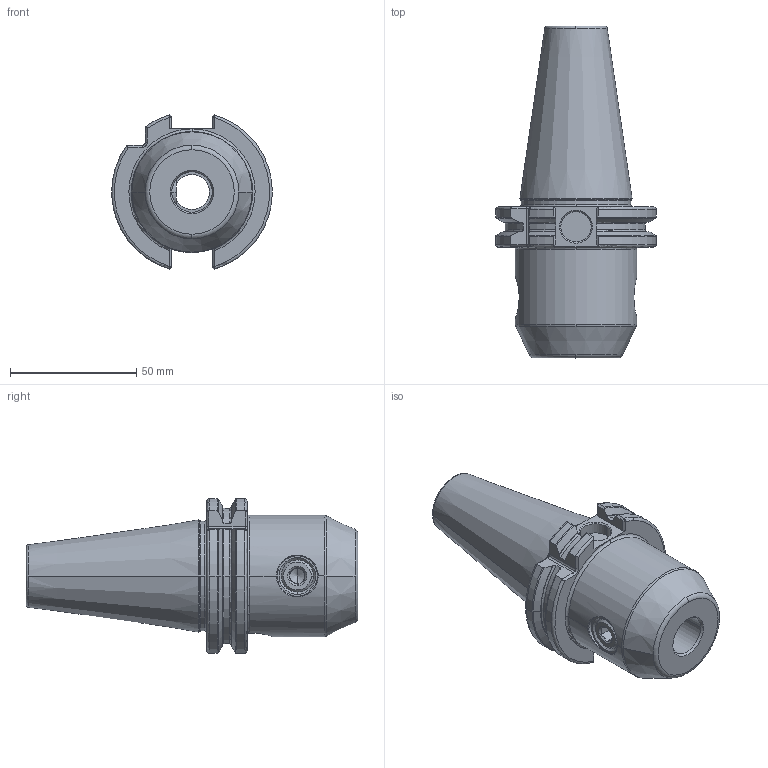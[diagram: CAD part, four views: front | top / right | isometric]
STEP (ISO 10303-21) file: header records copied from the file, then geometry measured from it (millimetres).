
FILE_DESCRIPTION (( 'STEP AP214' ), '1' );
FILE_NAME ('04-0521.STEP', '2022-02-02T18:26:34', ( '' ), ( '' ), 'SwSTEP 2.0', 'SolidWorks 2021', '' );
FILE_SCHEMA (( 'AUTOMOTIVE_DESIGN' ));
Length unit declared in the file: inch
Products named in the file (1): 04-0521
Bounding box: 63.55 x 131.4 x 61.05 mm (x, y, z)
Volume: 162059.6 mm3; surface area: 28851.5 mm2
Topology: 1 solids, 1 shells, 196 faces, 517 edges, 326 vertices
Faces by surface type: plane 58, cone 42, cylinder 42, torus 34, bspline 18, sphere 2
Entity records: 10189 total; most frequent: CARTESIAN_POINT 2941, ORIENTED_EDGE 1026, DIRECTION 941, EDGE_CURVE 513, AXIS2_PLACEMENT_3D 372, VERTEX_POINT 326, EDGE_LOOP 205, DIMENSIONAL_EXPONENTS 199
